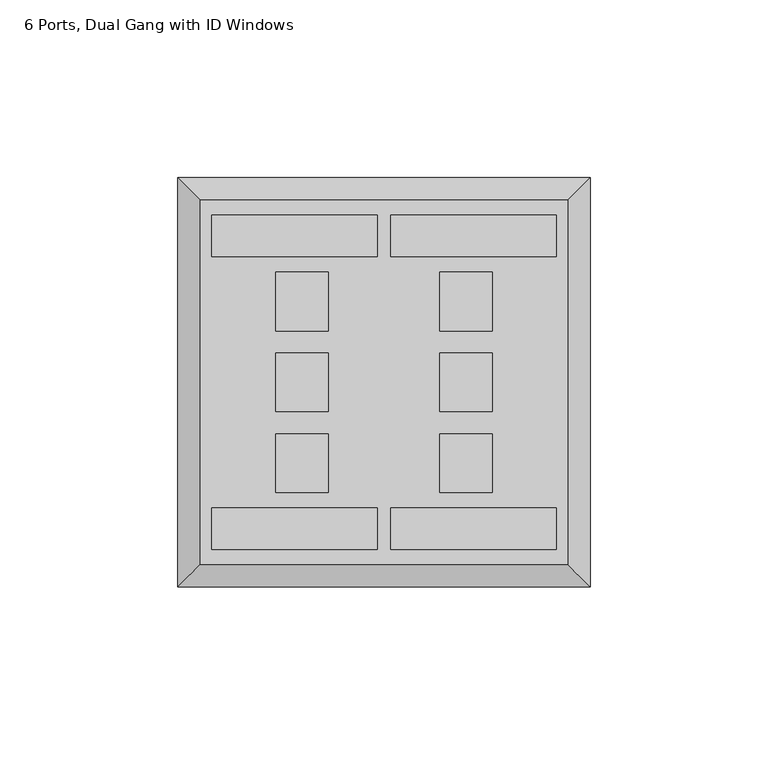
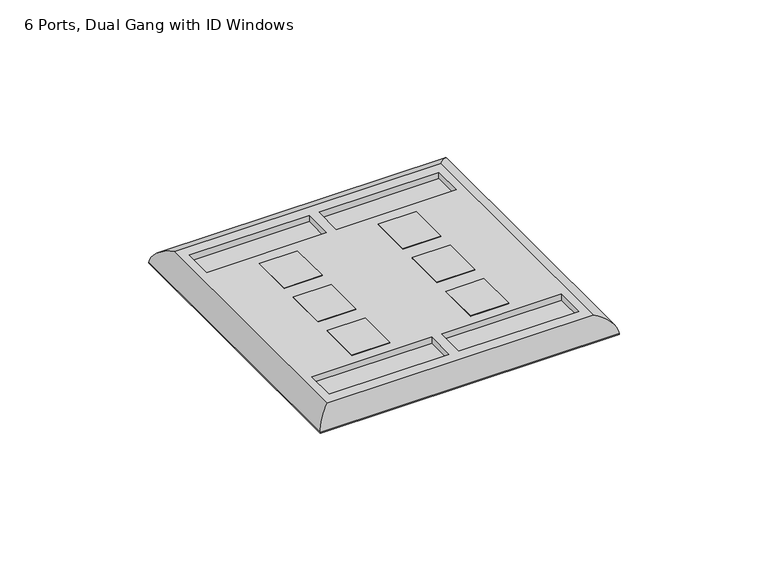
"""IFC4 building model written with IfcOpenShell, lengths in millimetres: electric appliance geometry, Data_Device-Work_Area-Leviton-QuickPort-Wallplate : 6 Ports, Dual Gang with ID Windows."""

from ifc_helpers import new_model, si_unit, frame, origin, origin_with_axes, place, context, project, spatial, polyline, ellipse_curve, outline, extrude, source, transform, mapped, element, save
from ifc_brep_helpers import plane_surface, cylinder_surface, advanced_brep


def electric_appliance_6_ports_dual_gang_with_id_windows_308ac3af(model_context):
    return source(origin(), model_context, "Body", "SolidModel", [
        extrude(outline(polyline([(-38.6842, 16.4465), (-38.6842, -0.0635), (-53.4162, -0.0635), (-53.4162, 16.4465), (-38.6842, 16.4465)])), origin_with_axes(), (0.0, 0.0, 1.0), 6.35),
        extrude(outline(polyline([(-38.6842, 39.1795), (-38.6842, 22.6695), (-53.4162, 22.6695), (-53.4162, 39.1795), (-38.6842, 39.1795)])), origin_with_axes(), (0.0, 0.0, 1.0), 6.35),
        extrude(outline(polyline([(-38.6842, -6.2865), (-38.6842, -22.7965), (-53.4162, -22.7965), (-53.4162, -6.2865), (-38.6842, -6.2865)])), origin_with_axes(), (0.0, 0.0, 1.0), 6.35),
        extrude(outline(polyline([(7.366, 16.4465), (7.366, -0.0635), (-7.366, -0.0635), (-7.366, 16.4465), (7.366, 16.4465)])), origin_with_axes(), (0.0, 0.0, 1.0), 6.35),
        extrude(outline(polyline([(7.366, 39.1795), (7.366, 22.6695), (-7.366, 22.6695), (-7.366, 39.1795), (7.366, 39.1795)])), origin_with_axes(), (0.0, 0.0, 1.0), 6.35),
        extrude(outline(polyline([(7.366, -6.2865), (7.366, -22.7965), (-7.366, -22.7965), (-7.366, -6.2865), (7.366, -6.2865)])), origin_with_axes(), (0.0, 0.0, 1.0), 6.35),
        advanced_brep(
        [(28.575, -42.9895, 6.35), (28.575, 59.3725, 6.35), (-74.6252, 59.3725, 6.35), (-74.6252, -42.9895, 6.35), (-71.44004, 55.1815, 6.35), (-24.95804, 55.1815, 6.35), (-24.95804, 43.4975, 6.35), (-71.44004, 43.4975, 6.35), (-21.09216, 43.4975, 6.35), (-21.09216, 55.1815, 6.35), (25.38984, 55.1815, 6.35), (25.38984, 43.4975, 6.35), (-53.4162, 39.1795, 6.35), (-38.6842, 39.1795, 6.35), (-38.6842, 22.6695, 6.35), (-53.4162, 22.6695, 6.35), (-53.4162, 16.4465, 6.35), (-38.6842, 16.4465, 6.35), (-38.6842, -0.0635, 6.35), (-53.4162, -0.0635, 6.35), (-53.4162, -6.2865, 6.35), (-38.6842, -6.2865, 6.35), (-38.6842, -22.7965, 6.35), (-53.4162, -22.7965, 6.35), (-7.366, 39.1795, 6.35), (7.366, 39.1795, 6.35), (7.366, 22.6695, 6.35), (-7.366, 22.6695, 6.35), (-7.366, 16.4465, 6.35), (7.366, 16.4465, 6.35), (7.366, -0.0635, 6.35), (-7.366, -0.0635, 6.35), (-7.366, -6.2865, 6.35), (7.366, -6.2865, 6.35), (7.366, -22.7965, 6.35), (-7.366, -22.7965, 6.35), (-71.44004, -27.1145, 6.35), (-24.95804, -27.1145, 6.35), (-24.95804, -38.7985, 6.35), (-71.44004, -38.7985, 6.35), (-21.09216, -27.1145, 6.35), (25.38984, -27.1145, 6.35), (25.38984, -38.7985, 6.35), (-21.09216, -38.7985, 6.35), (34.925, 65.7225, 0.0), (34.925, -49.3395, 0.0), (-80.9752, -49.3395, 0.0), (-80.9752, 65.7225, 0.0), (-38.6842, 39.1795, 0.0), (-53.4162, 39.1795, 0.0), (-53.4162, 22.6695, 0.0), (-38.6842, 22.6695, 0.0), (-38.6842, 16.4465, 0.0), (-53.4162, 16.4465, 0.0), (-53.4162, -0.0635, 0.0), (-38.6842, -0.0635, 0.0), (-38.6842, -6.2865, 0.0), (-53.4162, -6.2865, 0.0), (-53.4162, -22.7965, 0.0), (-38.6842, -22.7965, 0.0), (7.366, 39.1795, 0.0), (-7.366, 39.1795, 0.0), (-7.366, 22.6695, 0.0), (7.366, 22.6695, 0.0), (7.366, 16.4465, 0.0), (-7.366, 16.4465, 0.0), (-7.366, -0.0635, 0.0), (7.366, -0.0635, 0.0), (7.366, -6.2865, 0.0), (-7.366, -6.2865, 0.0), (-7.366, -22.7965, 0.0), (7.366, -22.7965, 0.0), (-80.9752, 65.7225, 0.254), (34.925, 65.7225, 0.254), (-80.9752, -49.3395, 0.254), (34.925, -49.3395, 0.254), (-24.95804, 55.1815, 3.81), (-71.44004, 55.1815, 3.81), (-71.44004, 43.4975, 3.81), (-24.95804, 43.4975, 3.81), (-21.09216, 55.1815, 3.81), (-21.09216, 43.4975, 3.81), (25.38984, 43.4975, 3.81), (25.38984, 55.1815, 3.81), (-24.95804, -27.1145, 3.81), (-71.44004, -27.1145, 3.81), (-71.44004, -38.7985, 3.81), (-24.95804, -38.7985, 3.81), (25.38984, -27.1145, 3.81), (-21.09216, -27.1145, 3.81), (-21.09216, -38.7985, 3.81), (25.38984, -38.7985, 3.81)],
        [
            (0, 1),
            (1, 2),
            (2, 3),
            (3, 0),
            (4, 5),
            (5, 6),
            (6, 7),
            (7, 4),
            (8, 9),
            (9, 10),
            (10, 11),
            (11, 8),
            (12, 13),
            (13, 14),
            (14, 15),
            (15, 12),
            (16, 17),
            (17, 18),
            (18, 19),
            (19, 16),
            (20, 21),
            (21, 22),
            (22, 23),
            (23, 20),
            (24, 25),
            (25, 26),
            (26, 27),
            (27, 24),
            (28, 29),
            (29, 30),
            (30, 31),
            (31, 28),
            (32, 33),
            (33, 34),
            (34, 35),
            (35, 32),
            (36, 37),
            (37, 38),
            (38, 39),
            (39, 36),
            (40, 41),
            (41, 42),
            (42, 43),
            (43, 40),
            (44, 45),
            (45, 46),
            (46, 47),
            (47, 44),
            (48, 49),
            (49, 50),
            (50, 51),
            (51, 48),
            (52, 53),
            (53, 54),
            (54, 55),
            (55, 52),
            (56, 57),
            (57, 58),
            (58, 59),
            (59, 56),
            (60, 61),
            (61, 62),
            (62, 63),
            (63, 60),
            (64, 65),
            (65, 66),
            (66, 67),
            (67, 64),
            (68, 69),
            (69, 70),
            (70, 71),
            (71, 68),
            (47, 72),
            (72, 73),
            (73, 44),
            (46, 74),
            (74, 72),
            (45, 75),
            (75, 74),
            (73, 75),
            (76, 77),
            (77, 78),
            (78, 79),
            (79, 76),
            (80, 81),
            (81, 82),
            (82, 83),
            (83, 80),
            (76, 5),
            (4, 77),
            (7, 78),
            (6, 79),
            (80, 9),
            (8, 81),
            (11, 82),
            (10, 83),
            (12, 49),
            (48, 13),
            (15, 50),
            (14, 51),
            (16, 53),
            (52, 17),
            (19, 54),
            (18, 55),
            (20, 57),
            (56, 21),
            (23, 58),
            (22, 59),
            (24, 61),
            (60, 25),
            (27, 62),
            (26, 63),
            (28, 65),
            (64, 29),
            (31, 66),
            (30, 67),
            (32, 69),
            (68, 33),
            (35, 70),
            (34, 71),
            (84, 85),
            (85, 86),
            (86, 87),
            (87, 84),
            (88, 89),
            (89, 90),
            (90, 91),
            (91, 88),
            (84, 37),
            (36, 85),
            (39, 86),
            (38, 87),
            (88, 41),
            (40, 89),
            (43, 90),
            (42, 91),
            (0, 75, ellipse_curve(frame((28.575, -42.9895, -0.0052917), z_axis=(0.7071067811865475, 0.7071067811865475, 0.0), x_axis=(0.7071067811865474, -0.7071067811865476, 0.0)), 8.9877397, 6.3552917)),
            (73, 1, ellipse_curve(frame((28.575, 59.3725, -0.0052917), z_axis=(0.7071067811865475, -0.7071067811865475, 0.0), x_axis=(-0.7071067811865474, -0.7071067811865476, 0.0)), 8.9877397, 6.3552917)),
            (3, 74, ellipse_curve(frame((-74.6252, -42.9895, -0.0052917), z_axis=(0.7071067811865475, -0.7071067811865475, 0.0), x_axis=(-0.7071067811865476, -0.7071067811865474, 0.0)), 8.9877397, 6.3552917)),
            (2, 72, ellipse_curve(frame((-74.6252, 59.3725, -0.0052917), z_axis=(-0.7071067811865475, -0.7071067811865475, 0.0), x_axis=(-0.7071067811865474, 0.7071067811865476, 0.0)), 8.9877397, 6.3552917)),
        ],
        [
            plane_surface(frame((-80.9752, 65.7225, 6.35), z_axis=(0.0, 0.0, 1.0), x_axis=(-1.0, 0.0, 0.0))),
            plane_surface(frame((-80.9752, 65.7225, 0.0), z_axis=(0.0, 0.0, -1.0), x_axis=(1.0, 0.0, 0.0))),
            plane_surface(frame((34.925, 65.7225, 6.35), z_axis=(0.0, 1.0, 0.0), x_axis=(0.0, 0.0, -1.0))),
            plane_surface(frame((-80.9752, 65.7225, 6.35), z_axis=(-1.0, 0.0, 0.0), x_axis=(0.0, 0.0, -1.0))),
            plane_surface(frame((-80.9752, -49.3395, 6.35), z_axis=(0.0, -1.0, 0.0), x_axis=(0.0, 0.0, -1.0))),
            plane_surface(frame((34.925, -49.3395, 6.35), z_axis=(1.0, 0.0, 0.0), x_axis=(0.0, 0.0, -1.0))),
            plane_surface(frame((-71.44004, 55.1815, 3.81), z_axis=(0.0, 0.0, 1.0), x_axis=(1.0, 0.0, 0.0))),
            plane_surface(frame((-24.95804, 55.1815, 6.35), z_axis=(0.0, -1.0, 0.0), x_axis=(0.0, 0.0, -1.0))),
            plane_surface(frame((-71.44004, 55.1815, 6.35), z_axis=(1.0, 0.0, 0.0), x_axis=(0.0, 0.0, -1.0))),
            plane_surface(frame((-71.44004, 43.4975, 6.35), z_axis=(0.0, 1.0, 0.0), x_axis=(0.0, 0.0, -1.0))),
            plane_surface(frame((-24.95804, 43.4975, 6.35), z_axis=(-1.0, 0.0, 0.0), x_axis=(0.0, 0.0, -1.0))),
            plane_surface(frame((-21.09216, 55.1815, 6.35), z_axis=(1.0, 0.0, 0.0), x_axis=(0.0, 0.0, -1.0))),
            plane_surface(frame((-21.09216, 43.4975, 6.35), z_axis=(0.0, 1.0, 0.0), x_axis=(0.0, 0.0, -1.0))),
            plane_surface(frame((25.38984, 43.4975, 6.35), z_axis=(-1.0, 0.0, 0.0), x_axis=(0.0, 0.0, -1.0))),
            plane_surface(frame((25.38984, 55.1815, 6.35), z_axis=(0.0, -1.0, 0.0), x_axis=(0.0, 0.0, -1.0))),
            plane_surface(frame((-38.6842, 39.1795, 6.35), z_axis=(0.0, -1.0, 0.0), x_axis=(0.0, 0.0, -1.0))),
            plane_surface(frame((-53.4162, 39.1795, 6.35), z_axis=(1.0, 0.0, 0.0), x_axis=(0.0, 0.0, -1.0))),
            plane_surface(frame((-53.4162, 22.6695, 6.35), z_axis=(0.0, 1.0, 0.0), x_axis=(0.0, 0.0, -1.0))),
            plane_surface(frame((-38.6842, 22.6695, 6.35), z_axis=(-1.0, 0.0, 0.0), x_axis=(0.0, 0.0, -1.0))),
            plane_surface(frame((-38.6842, 16.4465, 6.35), z_axis=(0.0, -1.0, 0.0), x_axis=(0.0, 0.0, -1.0))),
            plane_surface(frame((-53.4162, 16.4465, 6.35), z_axis=(1.0, 0.0, 0.0), x_axis=(0.0, 0.0, -1.0))),
            plane_surface(frame((-53.4162, -0.0635, 6.35), z_axis=(0.0, 1.0, 0.0), x_axis=(0.0, 0.0, -1.0))),
            plane_surface(frame((-38.6842, -0.0635, 6.35), z_axis=(-1.0, 0.0, 0.0), x_axis=(0.0, 0.0, -1.0))),
            plane_surface(frame((-38.6842, -6.2865, 6.35), z_axis=(0.0, -1.0, 0.0), x_axis=(0.0, 0.0, -1.0))),
            plane_surface(frame((-53.4162, -6.2865, 6.35), z_axis=(1.0, 0.0, 0.0), x_axis=(0.0, 0.0, -1.0))),
            plane_surface(frame((-53.4162, -22.7965, 6.35), z_axis=(0.0, 1.0, 0.0), x_axis=(0.0, 0.0, -1.0))),
            plane_surface(frame((-38.6842, -22.7965, 6.35), z_axis=(-1.0, 0.0, 0.0), x_axis=(0.0, 0.0, -1.0))),
            plane_surface(frame((7.366, 39.1795, 6.35), z_axis=(0.0, -1.0, 0.0), x_axis=(0.0, 0.0, -1.0))),
            plane_surface(frame((-7.366, 39.1795, 6.35), z_axis=(1.0, 0.0, 0.0), x_axis=(0.0, 0.0, -1.0))),
            plane_surface(frame((-7.366, 22.6695, 6.35), z_axis=(0.0, 1.0, 0.0), x_axis=(0.0, 0.0, -1.0))),
            plane_surface(frame((7.366, 22.6695, 6.35), z_axis=(-1.0, 0.0, 0.0), x_axis=(0.0, 0.0, -1.0))),
            plane_surface(frame((7.366, 16.4465, 6.35), z_axis=(0.0, -1.0, 0.0), x_axis=(0.0, 0.0, -1.0))),
            plane_surface(frame((-7.366, 16.4465, 6.35), z_axis=(1.0, 0.0, 0.0), x_axis=(0.0, 0.0, -1.0))),
            plane_surface(frame((-7.366, -0.0635, 6.35), z_axis=(0.0, 1.0, 0.0), x_axis=(0.0, 0.0, -1.0))),
            plane_surface(frame((7.366, -0.0635, 6.35), z_axis=(-1.0, 0.0, 0.0), x_axis=(0.0, 0.0, -1.0))),
            plane_surface(frame((7.366, -6.2865, 6.35), z_axis=(0.0, -1.0, 0.0), x_axis=(0.0, 0.0, -1.0))),
            plane_surface(frame((-7.366, -6.2865, 6.35), z_axis=(1.0, 0.0, 0.0), x_axis=(0.0, 0.0, -1.0))),
            plane_surface(frame((-7.366, -22.7965, 6.35), z_axis=(0.0, 1.0, 0.0), x_axis=(0.0, 0.0, -1.0))),
            plane_surface(frame((7.366, -22.7965, 6.35), z_axis=(-1.0, 0.0, 0.0), x_axis=(0.0, 0.0, -1.0))),
            plane_surface(frame((-71.44004, -27.1145, 3.81), z_axis=(0.0, 0.0, 1.0), x_axis=(1.0, 0.0, 0.0))),
            plane_surface(frame((-24.95804, -27.1145, 6.35), z_axis=(0.0, -1.0, 0.0), x_axis=(0.0, 0.0, -1.0))),
            plane_surface(frame((-71.44004, -27.1145, 6.35), z_axis=(1.0, 0.0, 0.0), x_axis=(0.0, 0.0, -1.0))),
            plane_surface(frame((-71.44004, -38.7985, 6.35), z_axis=(0.0, 1.0, 0.0), x_axis=(0.0, 0.0, -1.0))),
            plane_surface(frame((-24.95804, -38.7985, 6.35), z_axis=(-1.0, 0.0, 0.0), x_axis=(0.0, 0.0, -1.0))),
            plane_surface(frame((25.38984, -27.1145, 6.35), z_axis=(0.0, -1.0, 0.0), x_axis=(0.0, 0.0, -1.0))),
            plane_surface(frame((-21.09216, -27.1145, 6.35), z_axis=(1.0, 0.0, 0.0), x_axis=(0.0, 0.0, -1.0))),
            plane_surface(frame((-21.09216, -38.7985, 6.35), z_axis=(0.0, 1.0, 0.0), x_axis=(0.0, 0.0, -1.0))),
            plane_surface(frame((25.38984, -38.7985, 6.35), z_axis=(-1.0, 0.0, 0.0), x_axis=(0.0, 0.0, -1.0))),
            cylinder_surface(frame((28.575, 65.7225, -0.0052917), z_axis=(0.0, -1.0, 0.0), x_axis=(1.0, 0.0, 0.0)), 6.3552917),
            cylinder_surface(frame((34.925, -42.9895, -0.0052917), z_axis=(-1.0, 0.0, 0.0), x_axis=(0.0, -1.0, 0.0)), 6.3552917),
            cylinder_surface(frame((-74.6252, -49.3395, -0.0052917), z_axis=(0.0, 1.0, 0.0), x_axis=(-1.0, 0.0, 0.0)), 6.3552917),
            cylinder_surface(frame((-80.9752, 59.3725, -0.0052917), z_axis=(1.0, 0.0, 0.0), x_axis=(0.0, 1.0, 0.0)), 6.3552917),
        ],
        [
            (0, [[1, 2, 3, 4], [5, 6, 7, 8], [9, 10, 11, 12], [13, 14, 15, 16], [17, 18, 19, 20], [21, 22, 23, 24], [25, 26, 27, 28], [29, 30, 31, 32], [33, 34, 35, 36], [37, 38, 39, 40], [41, 42, 43, 44]]),
            (1, [[45, 46, 47, 48], [49, 50, 51, 52], [53, 54, 55, 56], [57, 58, 59, 60], [61, 62, 63, 64], [65, 66, 67, 68], [69, 70, 71, 72]]),
            (2, [[-48, 73, 74, 75]]),
            (3, [[-47, 76, 77, -73]]),
            (4, [[-46, 78, 79, -76]]),
            (5, [[-45, -75, 80, -78]]),
            (6, [[81, 82, 83, 84]]),
            (6, [[85, 86, 87, 88]]),
            (7, [[-81, 89, -5, 90]]),
            (8, [[-82, -90, -8, 91]]),
            (9, [[-83, -91, -7, 92]]),
            (10, [[-84, -92, -6, -89]]),
            (11, [[-85, 93, -9, 94]]),
            (12, [[-86, -94, -12, 95]]),
            (13, [[-87, -95, -11, 96]]),
            (14, [[-88, -96, -10, -93]]),
            (15, [[97, -49, 98, -13]]),
            (16, [[-97, -16, 99, -50]]),
            (17, [[-99, -15, 100, -51]]),
            (18, [[-98, -52, -100, -14]]),
            (19, [[101, -53, 102, -17]]),
            (20, [[-101, -20, 103, -54]]),
            (21, [[-103, -19, 104, -55]]),
            (22, [[-102, -56, -104, -18]]),
            (23, [[105, -57, 106, -21]]),
            (24, [[-105, -24, 107, -58]]),
            (25, [[-107, -23, 108, -59]]),
            (26, [[-106, -60, -108, -22]]),
            (27, [[109, -61, 110, -25]]),
            (28, [[-109, -28, 111, -62]]),
            (29, [[-111, -27, 112, -63]]),
            (30, [[-110, -64, -112, -26]]),
            (31, [[113, -65, 114, -29]]),
            (32, [[-113, -32, 115, -66]]),
            (33, [[-115, -31, 116, -67]]),
            (34, [[-114, -68, -116, -30]]),
            (35, [[117, -69, 118, -33]]),
            (36, [[-117, -36, 119, -70]]),
            (37, [[-119, -35, 120, -71]]),
            (38, [[-118, -72, -120, -34]]),
            (39, [[121, 122, 123, 124]]),
            (39, [[125, 126, 127, 128]]),
            (40, [[-121, 129, -37, 130]]),
            (41, [[-122, -130, -40, 131]]),
            (42, [[-123, -131, -39, 132]]),
            (43, [[-124, -132, -38, -129]]),
            (44, [[-125, 133, -41, 134]]),
            (45, [[-126, -134, -44, 135]]),
            (46, [[-127, -135, -43, 136]]),
            (47, [[-128, -136, -42, -133]]),
            (48, [[137, -80, 138, -1]]),
            (49, [[-137, -4, 139, -79]]),
            (50, [[-139, -3, 140, -77]]),
            (51, [[-138, -74, -140, -2]]),
        ],
    ),
        extrude(outline(polyline([(34.671, 65.4685), (34.671, -49.0855), (-80.7212, -49.0855), (-80.7212, 65.4685), (34.671, 65.4685)]), holes=[polyline([(-38.6842, 39.1795), (-53.4162, 39.1795), (-53.4162, 22.6695), (-38.6842, 22.6695), (-38.6842, 39.1795)]), polyline([(-38.6842, 16.4465), (-53.4162, 16.4465), (-53.4162, -0.0635), (-38.6842, -0.0635), (-38.6842, 16.4465)]), polyline([(-38.6842, -6.2865), (-53.4162, -6.2865), (-53.4162, -22.7965), (-38.6842, -22.7965), (-38.6842, -6.2865)]), polyline([(7.366, 39.1795), (-7.366, 39.1795), (-7.366, 22.6695), (7.366, 22.6695), (7.366, 39.1795)]), polyline([(7.366, 16.4465), (-7.366, 16.4465), (-7.366, -0.0635), (7.366, -0.0635), (7.366, 16.4465)]), polyline([(7.366, -6.2865), (-7.366, -6.2865), (-7.366, -22.7965), (7.366, -22.7965), (7.366, -6.2865)])]), origin_with_axes(), (0.0, 0.0, 1.0), 0.254),
    ])


if __name__ == "__main__":
    model = new_model("IFC4")
    model_context = context("Model", 3, world=origin())
    ifc_project = project(units=[si_unit("LENGTHUNIT", "METRE", prefix="MILLI")], contexts=[model_context])
    site = spatial("IfcSite", under=ifc_project)
    building = spatial("IfcBuilding", under=site)
    placement = place(None, origin())
    electric_appliance_6_ports_dual_gang_with_id_windows_shape = electric_appliance_6_ports_dual_gang_with_id_windows_308ac3af(model_context)
    element("IfcElectricAppliance", 1, ObjectType="Data_Device-Work_Area-Leviton-QuickPort-Wallplate : 6 Ports, Dual Gang with ID Windows", at=placement, inside=building, context=model_context, shape_type="MappedRepresentation", body=[
        mapped(electric_appliance_6_ports_dual_gang_with_id_windows_shape, transform((0.0, 0.0, 0.0), x_axis=(1.0, 0.0, 0.0), y_axis=(0.0, 1.0, 0.0), z_axis=(0.0, 0.0, 1.0))),
    ])
    save(model, "model.ifc")
